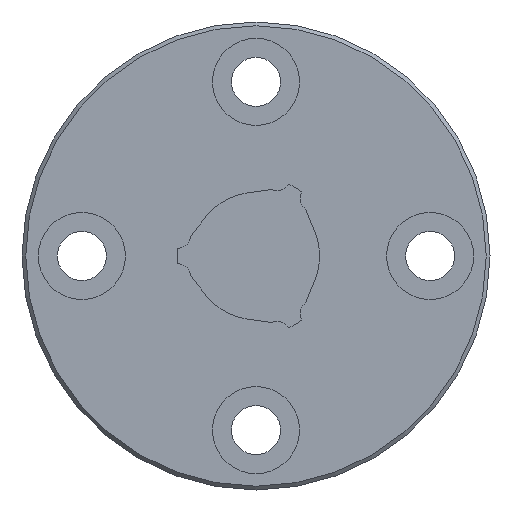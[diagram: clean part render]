
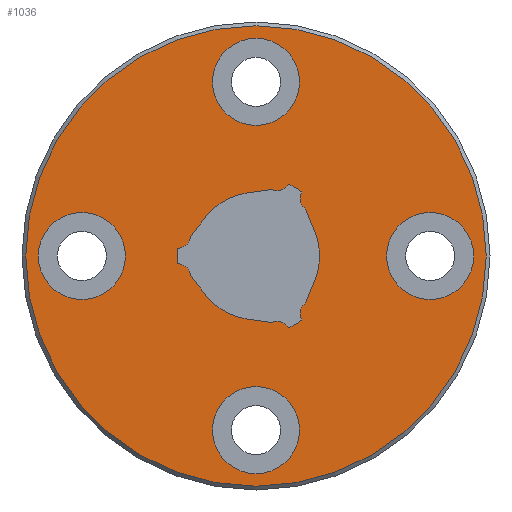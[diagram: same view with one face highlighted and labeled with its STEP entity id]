
A CAD part, left-side view. The second image highlights one B-rep face of the part: STEP entity #1036.
In plain terms, the highlighted planar face has unit normal (-1, 0, 0).
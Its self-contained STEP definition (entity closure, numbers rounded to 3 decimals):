
#48=PLANE('',#1150);
#91=LINE('',#1704,#151);
#92=LINE('',#1713,#152);
#93=LINE('',#1717,#153);
#94=LINE('',#1725,#154);
#95=LINE('',#1729,#155);
#96=LINE('',#1737,#156);
#151=VECTOR('',#1377,1000.);
#152=VECTOR('',#1384,1000.);
#153=VECTOR('',#1387,1000.);
#154=VECTOR('',#1394,1000.);
#155=VECTOR('',#1397,1000.);
#156=VECTOR('',#1404,1000.);
#289=ORIENTED_EDGE('',*,*,#513,.F.);
#290=ORIENTED_EDGE('',*,*,#514,.F.);
#291=ORIENTED_EDGE('',*,*,#515,.T.);
#292=ORIENTED_EDGE('',*,*,#516,.T.);
#293=ORIENTED_EDGE('',*,*,#517,.T.);
#294=ORIENTED_EDGE('',*,*,#518,.T.);
#295=ORIENTED_EDGE('',*,*,#519,.F.);
#296=ORIENTED_EDGE('',*,*,#520,.T.);
#297=ORIENTED_EDGE('',*,*,#521,.F.);
#298=ORIENTED_EDGE('',*,*,#522,.T.);
#299=ORIENTED_EDGE('',*,*,#523,.T.);
#300=ORIENTED_EDGE('',*,*,#524,.T.);
#301=ORIENTED_EDGE('',*,*,#525,.F.);
#302=ORIENTED_EDGE('',*,*,#526,.T.);
#303=ORIENTED_EDGE('',*,*,#527,.F.);
#304=ORIENTED_EDGE('',*,*,#528,.T.);
#305=ORIENTED_EDGE('',*,*,#529,.T.);
#306=ORIENTED_EDGE('',*,*,#530,.T.);
#307=ORIENTED_EDGE('',*,*,#531,.F.);
#308=ORIENTED_EDGE('',*,*,#532,.T.);
#309=ORIENTED_EDGE('',*,*,#533,.F.);
#310=ORIENTED_EDGE('',*,*,#534,.T.);
#311=ORIENTED_EDGE('',*,*,#535,.T.);
#513=EDGE_CURVE('',#634,#634,#725,.T.);
#514=EDGE_CURVE('',#635,#635,#726,.F.);
#515=EDGE_CURVE('',#636,#636,#727,.T.);
#516=EDGE_CURVE('',#637,#637,#728,.T.);
#517=EDGE_CURVE('',#638,#638,#729,.T.);
#518=EDGE_CURVE('',#639,#640,#91,.T.);
#519=EDGE_CURVE('',#641,#640,#730,.T.);
#520=EDGE_CURVE('',#641,#642,#731,.T.);
#521=EDGE_CURVE('',#643,#642,#732,.T.);
#522=EDGE_CURVE('',#643,#644,#92,.T.);
#523=EDGE_CURVE('',#644,#645,#733,.T.);
#524=EDGE_CURVE('',#645,#646,#93,.T.);
#525=EDGE_CURVE('',#647,#646,#734,.T.);
#526=EDGE_CURVE('',#647,#648,#735,.T.);
#527=EDGE_CURVE('',#649,#648,#736,.T.);
#528=EDGE_CURVE('',#649,#650,#94,.T.);
#529=EDGE_CURVE('',#650,#651,#737,.T.);
#530=EDGE_CURVE('',#651,#652,#95,.T.);
#531=EDGE_CURVE('',#653,#652,#738,.T.);
#532=EDGE_CURVE('',#653,#654,#739,.T.);
#533=EDGE_CURVE('',#655,#654,#740,.T.);
#534=EDGE_CURVE('',#655,#656,#96,.T.);
#535=EDGE_CURVE('',#656,#639,#741,.T.);
#634=VERTEX_POINT('',#1695);
#635=VERTEX_POINT('',#1697);
#636=VERTEX_POINT('',#1699);
#637=VERTEX_POINT('',#1701);
#638=VERTEX_POINT('',#1703);
#639=VERTEX_POINT('',#1705);
#640=VERTEX_POINT('',#1706);
#641=VERTEX_POINT('',#1708);
#642=VERTEX_POINT('',#1710);
#643=VERTEX_POINT('',#1712);
#644=VERTEX_POINT('',#1714);
#645=VERTEX_POINT('',#1716);
#646=VERTEX_POINT('',#1718);
#647=VERTEX_POINT('',#1720);
#648=VERTEX_POINT('',#1722);
#649=VERTEX_POINT('',#1724);
#650=VERTEX_POINT('',#1726);
#651=VERTEX_POINT('',#1728);
#652=VERTEX_POINT('',#1730);
#653=VERTEX_POINT('',#1732);
#654=VERTEX_POINT('',#1734);
#655=VERTEX_POINT('',#1736);
#656=VERTEX_POINT('',#1738);
#725=CIRCLE('',#1151,21.15);
#726=CIRCLE('',#1152,4.);
#727=CIRCLE('',#1153,4.);
#728=CIRCLE('',#1154,4.);
#729=CIRCLE('',#1155,4.);
#730=CIRCLE('',#1156,1.24);
#731=CIRCLE('',#1157,7.25);
#732=CIRCLE('',#1158,1.24);
#733=CIRCLE('',#1159,5.85);
#734=CIRCLE('',#1160,1.24);
#735=CIRCLE('',#1161,7.25);
#736=CIRCLE('',#1162,1.24);
#737=CIRCLE('',#1163,5.85);
#738=CIRCLE('',#1164,1.24);
#739=CIRCLE('',#1165,7.25);
#740=CIRCLE('',#1166,1.24);
#741=CIRCLE('',#1167,5.85);
#794=EDGE_LOOP('',(#289));
#795=EDGE_LOOP('',(#290));
#796=EDGE_LOOP('',(#291));
#797=EDGE_LOOP('',(#292));
#798=EDGE_LOOP('',(#293));
#799=EDGE_LOOP('',(#294,#295,#296,#297,#298,#299,#300,#301,#302,#303,#304,
#305,#306,#307,#308,#309,#310,#311));
#896=FACE_BOUND('',#794,.T.);
#897=FACE_BOUND('',#795,.T.);
#898=FACE_BOUND('',#796,.T.);
#899=FACE_BOUND('',#797,.T.);
#900=FACE_BOUND('',#798,.T.);
#901=FACE_BOUND('',#799,.T.);
#1036=ADVANCED_FACE('',(#896,#897,#898,#899,#900,#901),#48,.F.);
#1150=AXIS2_PLACEMENT_3D('',#1693,#1365,#1366);
#1151=AXIS2_PLACEMENT_3D('',#1694,#1367,#1368);
#1152=AXIS2_PLACEMENT_3D('',#1696,#1369,#1370);
#1153=AXIS2_PLACEMENT_3D('',#1698,#1371,#1372);
#1154=AXIS2_PLACEMENT_3D('',#1700,#1373,#1374);
#1155=AXIS2_PLACEMENT_3D('',#1702,#1375,#1376);
#1156=AXIS2_PLACEMENT_3D('',#1707,#1378,#1379);
#1157=AXIS2_PLACEMENT_3D('',#1709,#1380,#1381);
#1158=AXIS2_PLACEMENT_3D('',#1711,#1382,#1383);
#1159=AXIS2_PLACEMENT_3D('',#1715,#1385,#1386);
#1160=AXIS2_PLACEMENT_3D('',#1719,#1388,#1389);
#1161=AXIS2_PLACEMENT_3D('',#1721,#1390,#1391);
#1162=AXIS2_PLACEMENT_3D('',#1723,#1392,#1393);
#1163=AXIS2_PLACEMENT_3D('',#1727,#1395,#1396);
#1164=AXIS2_PLACEMENT_3D('',#1731,#1398,#1399);
#1165=AXIS2_PLACEMENT_3D('',#1733,#1400,#1401);
#1166=AXIS2_PLACEMENT_3D('',#1735,#1402,#1403);
#1167=AXIS2_PLACEMENT_3D('',#1739,#1405,#1406);
#1365=DIRECTION('',(1.,0.,0.));
#1366=DIRECTION('',(0.,0.,-1.));
#1367=DIRECTION('',(1.,0.,0.));
#1368=DIRECTION('',(0.,0.,-1.));
#1369=DIRECTION('',(1.,0.,0.));
#1370=DIRECTION('',(0.,0.,-1.));
#1371=DIRECTION('',(1.,0.,0.));
#1372=DIRECTION('',(0.,0.,-1.));
#1373=DIRECTION('',(1.,0.,0.));
#1374=DIRECTION('',(0.,0.,-1.));
#1375=DIRECTION('',(1.,0.,0.));
#1376=DIRECTION('',(0.,0.,-1.));
#1377=DIRECTION('',(0.,-0.99,0.139));
#1378=DIRECTION('',(1.,0.,0.));
#1379=DIRECTION('',(0.,0.,-1.));
#1380=DIRECTION('',(1.,0.,0.));
#1381=DIRECTION('',(0.,0.,-1.));
#1382=DIRECTION('',(1.,0.,0.));
#1383=DIRECTION('',(0.,0.,-1.));
#1384=DIRECTION('',(0.,-0.375,-0.927));
#1385=DIRECTION('',(1.,0.,0.));
#1386=DIRECTION('',(0.,0.,-1.));
#1387=DIRECTION('',(0.,0.375,-0.927));
#1388=DIRECTION('',(1.,0.,0.));
#1389=DIRECTION('',(0.,0.,-1.));
#1390=DIRECTION('',(1.,0.,0.));
#1391=DIRECTION('',(0.,0.,-1.));
#1392=DIRECTION('',(1.,0.,0.));
#1393=DIRECTION('',(0.,0.,-1.));
#1394=DIRECTION('',(0.,0.99,0.139));
#1395=DIRECTION('',(1.,0.,0.));
#1396=DIRECTION('',(0.,0.,-1.));
#1397=DIRECTION('',(0.,0.616,0.788));
#1398=DIRECTION('',(1.,0.,0.));
#1399=DIRECTION('',(0.,0.,-1.));
#1400=DIRECTION('',(1.,0.,0.));
#1401=DIRECTION('',(0.,0.,-1.));
#1402=DIRECTION('',(1.,0.,0.));
#1403=DIRECTION('',(0.,0.,-1.));
#1404=DIRECTION('',(0.,-0.616,0.788));
#1405=DIRECTION('',(1.,0.,0.));
#1406=DIRECTION('',(0.,0.,-1.));
#1693=CARTESIAN_POINT('',(0.,0.,0.));
#1694=CARTESIAN_POINT('',(0.,0.,0.));
#1695=CARTESIAN_POINT('',(0.,0.,-21.15));
#1696=CARTESIAN_POINT('',(0.,16.,0.));
#1697=CARTESIAN_POINT('',(0.,16.,-4.));
#1698=CARTESIAN_POINT('',(0.,0.,16.));
#1699=CARTESIAN_POINT('',(0.,0.,12.));
#1700=CARTESIAN_POINT('',(0.,-16.,0.));
#1701=CARTESIAN_POINT('',(0.,-16.,-4.));
#1702=CARTESIAN_POINT('',(0.,0.,-16.));
#1703=CARTESIAN_POINT('',(0.,0.,-20.));
#1704=CARTESIAN_POINT('',(0.,0.814,5.793));
#1705=CARTESIAN_POINT('',(0.,0.814,5.793));
#1706=CARTESIAN_POINT('',(0.,-1.443,6.11));
#1707=CARTESIAN_POINT('',(0.,-1.94,7.247));
#1708=CARTESIAN_POINT('',(0.,-2.998,6.601));
#1709=CARTESIAN_POINT('',(0.,0.,0.));
#1710=CARTESIAN_POINT('',(0.,-4.218,5.897));
#1711=CARTESIAN_POINT('',(0.,-5.306,5.303));
#1712=CARTESIAN_POINT('',(0.,-4.57,4.305));
#1713=CARTESIAN_POINT('',(0.,-4.57,4.305));
#1714=CARTESIAN_POINT('',(0.,-5.424,2.191));
#1715=CARTESIAN_POINT('',(0.,0.,0.));
#1716=CARTESIAN_POINT('',(0.,-5.424,-2.191));
#1717=CARTESIAN_POINT('',(0.,-5.424,-2.191));
#1718=CARTESIAN_POINT('',(0.,-4.57,-4.305));
#1719=CARTESIAN_POINT('',(0.,-5.306,-5.303));
#1720=CARTESIAN_POINT('',(0.,-4.218,-5.897));
#1721=CARTESIAN_POINT('',(0.,0.,0.));
#1722=CARTESIAN_POINT('',(0.,-2.998,-6.601));
#1723=CARTESIAN_POINT('',(0.,-1.94,-7.247));
#1724=CARTESIAN_POINT('',(0.,-1.443,-6.11));
#1725=CARTESIAN_POINT('',(0.,-1.443,-6.11));
#1726=CARTESIAN_POINT('',(0.,0.814,-5.793));
#1727=CARTESIAN_POINT('',(0.,0.,0.));
#1728=CARTESIAN_POINT('',(0.,4.61,-3.602));
#1729=CARTESIAN_POINT('',(0.,4.61,-3.602));
#1730=CARTESIAN_POINT('',(0.,6.013,-1.805));
#1731=CARTESIAN_POINT('',(0.,7.246,-1.944));
#1732=CARTESIAN_POINT('',(0.,7.216,-0.704));
#1733=CARTESIAN_POINT('',(0.,0.,0.));
#1734=CARTESIAN_POINT('',(0.,7.216,0.704));
#1735=CARTESIAN_POINT('',(0.,7.246,1.944));
#1736=CARTESIAN_POINT('',(0.,6.013,1.805));
#1737=CARTESIAN_POINT('',(0.,6.013,1.805));
#1738=CARTESIAN_POINT('',(0.,4.61,3.602));
#1739=CARTESIAN_POINT('',(0.,0.,0.));
